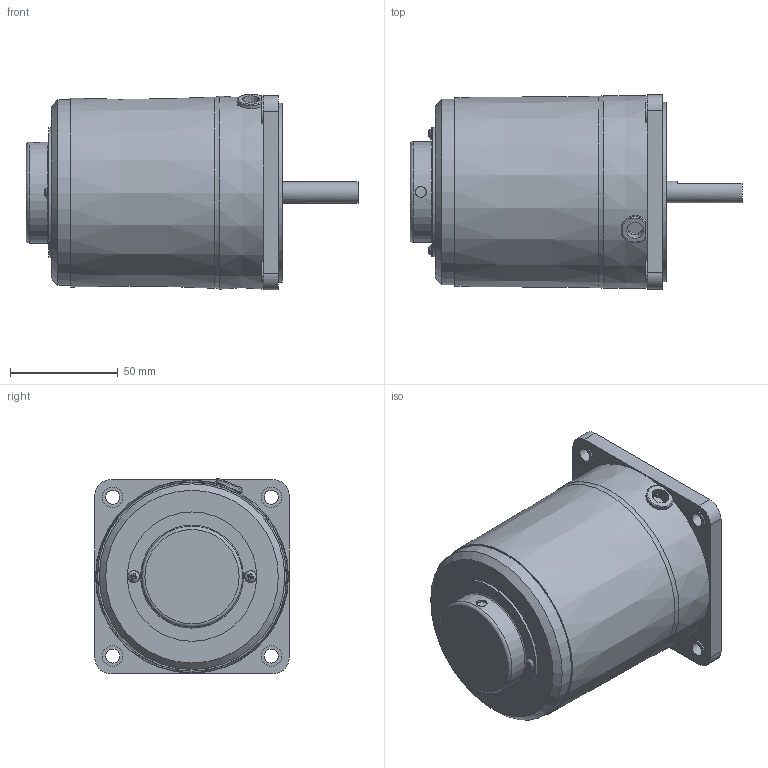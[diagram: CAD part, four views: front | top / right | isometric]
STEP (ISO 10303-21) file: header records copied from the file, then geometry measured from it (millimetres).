
FILE_DESCRIPTION((''),'2;1');
FILE_NAME('D:\김성묵\업무폴더\개발 파일\프로젝트 개발 AB등급\AC표준형 개발자료\90각 이하 표준형 개발\도면작성 자료\3D 도면\홈페이지용 3D 파일\40W MOTOR\SPEED CONTROL\S9I(R)40D-V(S).stp','2015-03-30T18:14:25',('smkim'),(''),'Autodesk Inventor 2012','Autodesk Inventor 2012','');
FILE_SCHEMA(('AUTOMOTIVE_DESIGN { 1 0 10303 214 1 1 1 1 }'));
Length unit declared in the file: millimetre
Products named in the file (1): 부품57
Bounding box: 153.8 x 90 x 90.6 mm (x, y, z)
Volume: 669854.9 mm3; surface area: 52318.9 mm2
Topology: 1 solids, 6 shells, 140 faces, 323 edges, 211 vertices
Faces by surface type: plane 84, cylinder 42, torus 9, cone 3, bspline 2
Full cylindrical faces by diameter (mm): 3 x2, 3.5 x2, 5 x1, 5.6 x2, 6.5 x4, 8 x1, 9.5 x4, 10 x2, 40 x1, 44.7 x1, 46.7 x1, 47.7 x1, 59.9 x1, 83 x1, 86 x1
Entity records: 4066 total; most frequent: CARTESIAN_POINT 957, DIRECTION 620, ORIENTED_EDGE 554, EDGE_CURVE 277, AXIS2_PLACEMENT_3D 235, EDGE_LOOP 211, VERTEX_POINT 204, VECTOR 150
